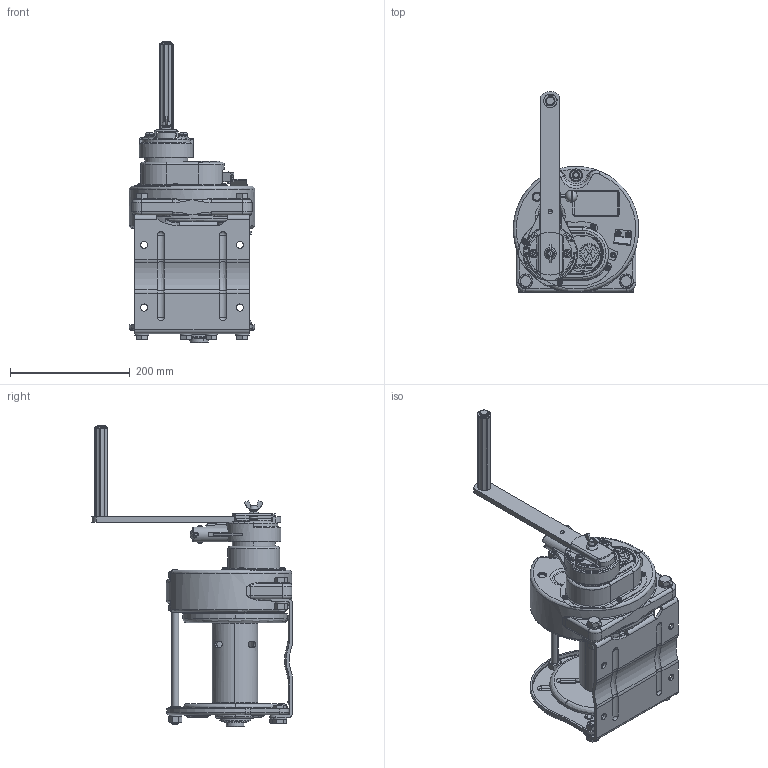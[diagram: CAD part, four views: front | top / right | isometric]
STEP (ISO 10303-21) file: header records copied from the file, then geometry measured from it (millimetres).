
FILE_DESCRIPTION( (''), '2;1');
FILE_NAME ('ERSB-5.stp','2024-01-10T09:53:27',(''),(''),'spGate 19.8.2 (****-****-****-****)','','');
FILE_SCHEMA (('AUTOMOTIVE_DESIGN'));
Length unit declared in the file: millimetre
Products named in the file (3): Assembly; ERSB-5-prt0; ERSB-5-prt1
Assembly tree (2 placements, depth 2):
  Assembly
    ERSB-5-prt0
    ERSB-5-prt1
Bounding box: 209.96 x 335.43 x 503.8 mm (x, y, z)
Volume: 4089408.3 mm3; surface area: 671759.6 mm2
Topology: 2 solids, 2 shells, 2974 faces, 7620 edges, 4803 vertices
Faces by surface type: plane 1465, cylinder 931, bspline 471, sphere 107
Entity records: 162403 total; most frequent: CARTESIAN_POINT 30847, ORIENTED_EDGE 15130, DIRECTION 14762, COLOUR_RGB 10541, PRESENTATION_STYLE_ASSIGNMENT 10541, STYLED_ITEM 10541, EDGE_CURVE 7565, DRAUGHTING_PRE_DEFINED_CURVE_FONT 7565
